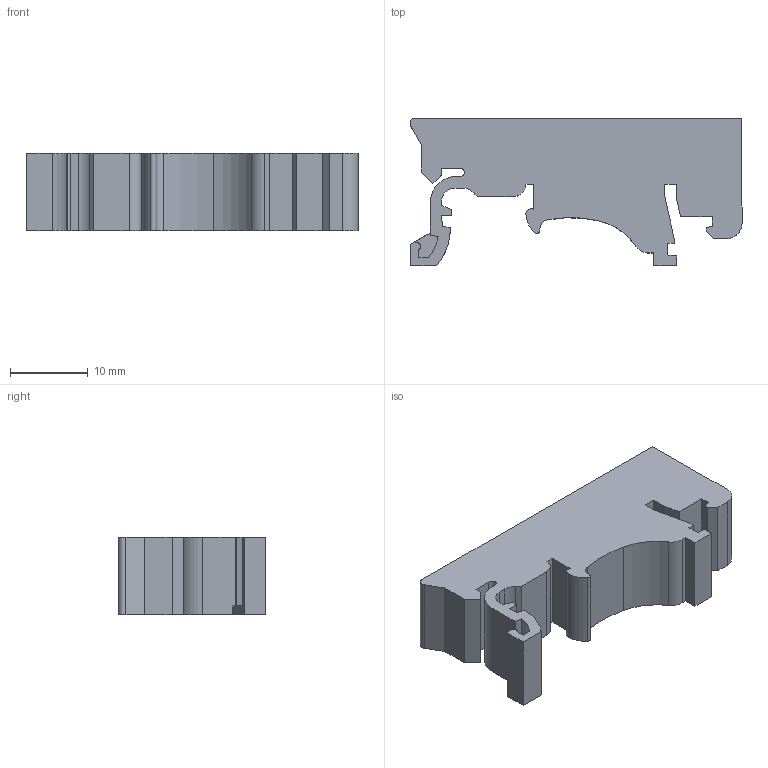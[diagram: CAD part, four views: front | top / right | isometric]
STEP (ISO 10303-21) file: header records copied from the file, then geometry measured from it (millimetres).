
FILE_DESCRIPTION(('SolidDesigner STEP Export'),'2;1');
FILE_NAME('1201578_USA_10-select.stp','2015-10-12T12:50:59',(''),(''),'Creo Elements/Direct Modeling STEP processor for AP214 (Solid Model)','Creo Elements/Direct Modeling 18.1B 29-Sep-2012 (C) Parametric Technology GmbH','');
FILE_SCHEMA(('AUTOMOTIVE_DESIGN { 1 0 10303 214 1 1 1 1 }'));
Length unit declared in the file: millimetre
Products named in the file (1): 1201578_USA_10-select
Bounding box: 42.69 x 19 x 10 mm (x, y, z)
Volume: 5255.4 mm3; surface area: 3111.3 mm2
Topology: 1 solids, 1 shells, 81 faces, 228 edges, 152 vertices
Faces by surface type: plane 57, cylinder 24
Entity records: 3242 total; most frequent: ORIENTED_EDGE 456, CARTESIAN_POINT 454, DIRECTION 426, EDGE_CURVE 228, VECTOR 178, LINE 178, VERTEX_POINT 152, AXIS2_PLACEMENT_3D 124
